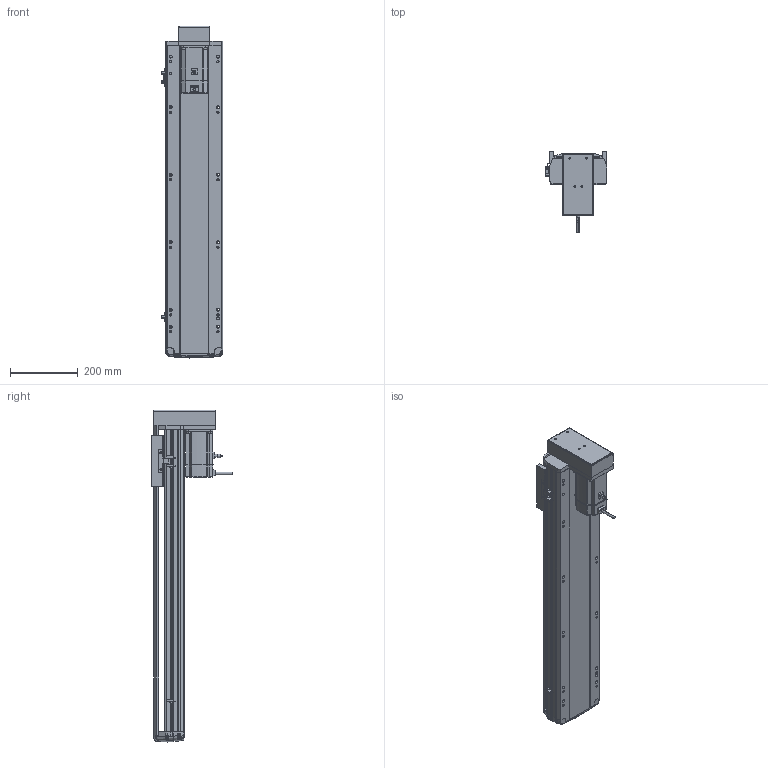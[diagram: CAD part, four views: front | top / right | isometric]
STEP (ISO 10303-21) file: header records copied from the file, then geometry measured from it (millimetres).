
FILE_DESCRIPTION (( 'STEP AP214' ), '1' );
FILE_NAME ('RTH17-XX-700-M-M75-C4.STEP', '2025-10-24T10:25:15', ( '' ), ( '' ), 'SwSTEP 2.0', 'SolidWorks 2018', '' );
FILE_SCHEMA (( 'AUTOMOTIVE_DESIGN' ));
Length unit declared in the file: millimetre
Products named in the file (10): N_RTH-BL-012 感应片(外置)^RTH17-XX-XX-M-M75-C4（方程式）; N_OMRON EE-SX672 換覜ん^RTH17-XX-XX-M-M75-C4ㄗ源最宒ㄘ; N_M75^RTH17-XX-XX-M-M75-C4（方程式）; N_RTH17-M-007上盖^RTH17-XX-XX-M-M75-C4（方程式）; N_RTH17-M-011底座^RTH17-XX-XX-M-M75-C4（方程式）; RTH17-XX-700-M-M75-C4; N_RTH17-M-008-P75电机安装板下折750W^RTH17-XX-XX-M-M75-C4（方程式）; N_RTH17-E-004丝杆螺母连接座^RTH17-XX-XX-M-M75-C4（方程式）; N_RTH17-GY-001P^RTH17-XX-XX-M-M75-C4（方程式）; N_RTH17-M-018盖子^RTH17-XX-XX-M-M75-C4（方程式）
Assembly tree (11 placements, depth 2):
  RTH17-XX-700-M-M75-C4
    N_RTH17-M-011底座^RTH17-XX-XX-M-M75-C4（方程式）
    N_RTH17-M-007上盖^RTH17-XX-XX-M-M75-C4（方程式）
    N_M75^RTH17-XX-XX-M-M75-C4（方程式）
    N_OMRON EE-SX672 換覜ん^RTH17-XX-XX-M-M75-C4ㄗ源最宒ㄘ  x3
    N_RTH-BL-012 感应片(外置)^RTH17-XX-XX-M-M75-C4（方程式）
    N_RTH17-M-008-P75电机安装板下折750W^RTH17-XX-XX-M-M75-C4（方程式）
    N_RTH17-M-018盖子^RTH17-XX-XX-M-M75-C4（方程式）
    N_RTH17-E-004丝杆螺母连接座^RTH17-XX-XX-M-M75-C4（方程式）
    N_RTH17-GY-001P^RTH17-XX-XX-M-M75-C4（方程式）
Bounding box: 183.5 x 240.7 x 983.19 mm (x, y, z)
Volume: 8190825.5 mm3; surface area: 1154157.1 mm2
Topology: 10 solids, 12 shells, 1757 faces, 4850 edges, 3140 vertices
Faces by surface type: plane 830, cylinder 513, bspline 377, cone 28, torus 9
Entity records: 51379 total; most frequent: CARTESIAN_POINT 20520, ORIENTED_EDGE 6724, DIRECTION 5584, EDGE_CURVE 3366, VERTEX_POINT 2176, AXIS2_PLACEMENT_3D 1879, LINE 1826, VECTOR 1826
